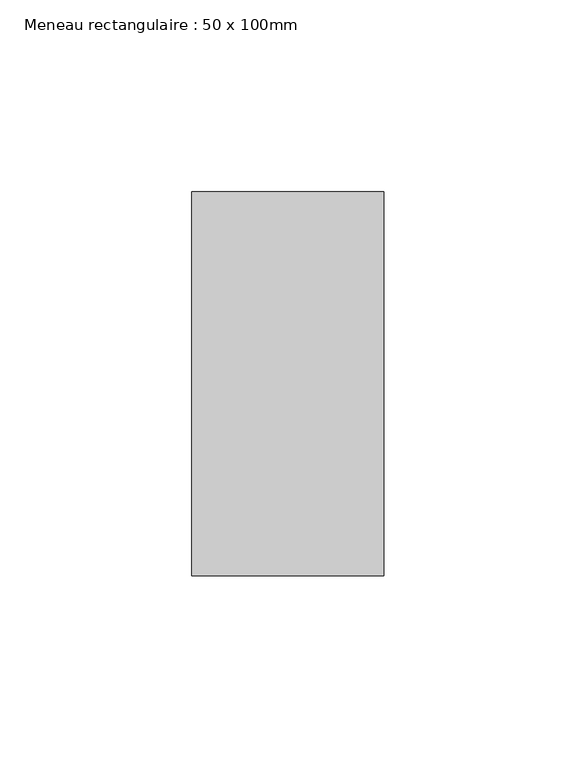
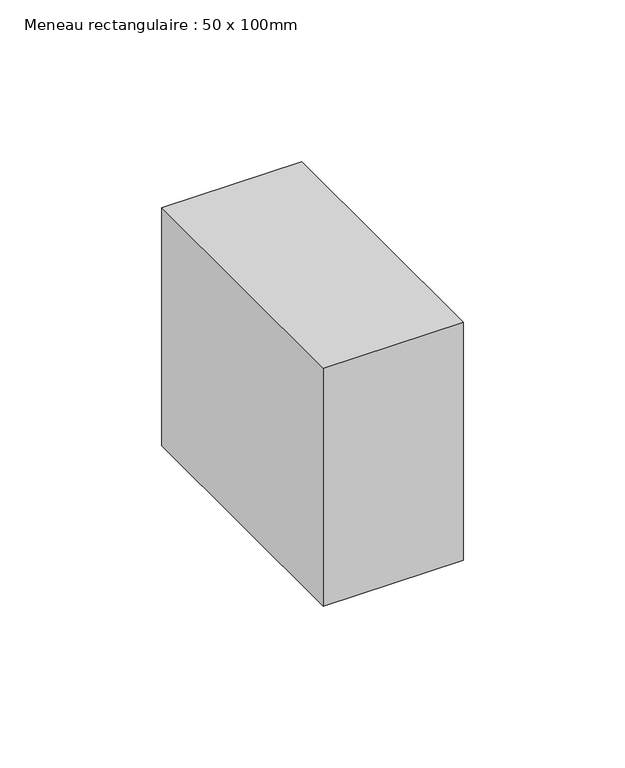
"""IFC4 building model written with IfcOpenShell, lengths in millimetres: member geometry, Meneau rectangulaire : 50 x 100mm."""

from ifc_helpers import new_model, si_unit, frame, origin, place, context, project, spatial, polyline, outline, extrude, source, transform, mapped, element, save


def meneau_rectangulaire_50_x_100mm_27001ddf(model_context):
    return source(origin(), model_context, "Body", "SweptSolid", [
        extrude(outline(polyline([(0.0, 50.0), (0.0, -50.0), (-50.0, -50.0), (-50.0, 50.0), (0.0, 50.0)])), frame((0.0, 0.0, -89.8624795), z_axis=(0.0, 0.0, 1.0), x_axis=(1.0, 0.0, 0.0)), (0.0, 0.0, 1.0), 89.8624795),
    ])


if __name__ == "__main__":
    model = new_model("IFC4")
    model_context = context("Model", 3, world=origin())
    ifc_project = project(units=[si_unit("LENGTHUNIT", "METRE", prefix="MILLI")], contexts=[model_context])
    site = spatial("IfcSite", under=ifc_project)
    building = spatial("IfcBuilding", under=site)
    placement = place(None, origin())
    meneau_rectangulaire_50_x_100mm_shape = meneau_rectangulaire_50_x_100mm_27001ddf(model_context)
    element("IfcMember", 1, ObjectType="Meneau rectangulaire : 50 x 100mm", at=placement, inside=building, context=model_context, shape_type="MappedRepresentation", body=[
        mapped(meneau_rectangulaire_50_x_100mm_shape, transform((0.0, 0.0, 0.0), x_axis=(1.0, 0.0, 0.0), y_axis=(0.0, 1.0, 0.0), z_axis=(0.0, 0.0, 1.0))),
    ])
    save(model, "model.ifc")
